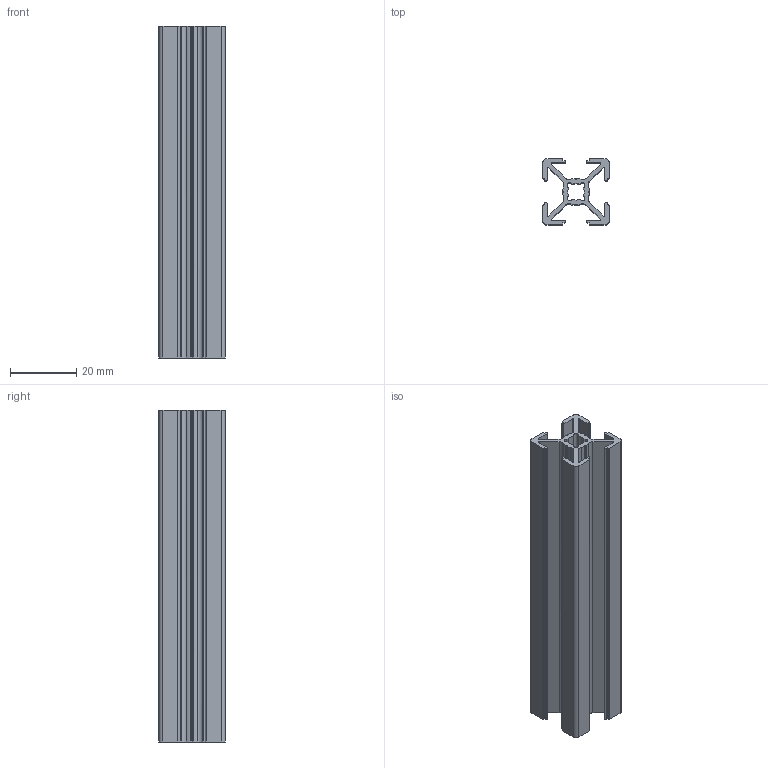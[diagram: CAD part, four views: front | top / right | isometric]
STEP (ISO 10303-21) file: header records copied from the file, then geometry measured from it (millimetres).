
FILE_DESCRIPTION (( 'STEP AP203' ), '1' );
FILE_NAME ('1.20x20 Sigma Profil.STEP', '2022-01-12T16:14:04', ( '' ), ( '' ), 'SwSTEP 2.0', 'SolidWorks 2018', '' );
FILE_SCHEMA (( 'CONFIG_CONTROL_DESIGN' ));
Length unit declared in the file: millimetre
Products named in the file (1): 1.20x20 Sigma Profil
Bounding box: 20 x 20 x 100 mm (x, y, z)
Volume: 12775.8 mm3; surface area: 19519.3 mm2
Topology: 1 solids, 1 shells, 148 faces, 438 edges, 292 vertices
Faces by surface type: bspline 148
Entity records: 5148 total; most frequent: CARTESIAN_POINT 2577, ORIENTED_EDGE 876, EDGE_CURVE 438, B_SPLINE_CURVE_WITH_KNOTS 367, VERTEX_POINT 292, EDGE_LOOP 150, ADVANCED_FACE 148, FACE_OUTER_BOUND 148
